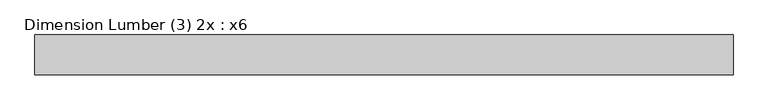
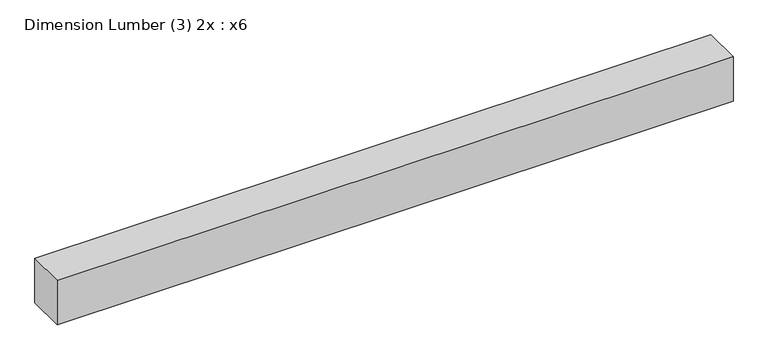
"""IFC4 building model written with IfcOpenShell, lengths in millimetres: beam geometry, Dimension Lumber (3) 2x : x6."""

from ifc_helpers import new_model, si_unit, frame, origin, place, context, project, spatial, polyline, outline, extrude, source, transform, mapped, element, save


def dimension_lumber_3_2x_x6_c5758202(model_context):
    return source(origin(), model_context, "Body", "SweptSolid", [
        extrude(outline(polyline([(1011.9868, 57.15), (1011.9868, -57.15), (-999.2868, -57.15), (-999.2868, 57.15), (1011.9868, 57.15)])), frame((0.0, 0.0, -69.85), z_axis=(0.0, 0.0, 1.0), x_axis=(1.0, 0.0, 0.0)), (0.0, 0.0, 1.0), 139.7),
    ])


if __name__ == "__main__":
    model = new_model("IFC4")
    model_context = context("Model", 3, world=origin())
    ifc_project = project(units=[si_unit("LENGTHUNIT", "METRE", prefix="MILLI")], contexts=[model_context])
    site = spatial("IfcSite", under=ifc_project)
    building = spatial("IfcBuilding", under=site)
    placement = place(None, origin())
    dimension_lumber_3_2x_x6_shape = dimension_lumber_3_2x_x6_c5758202(model_context)
    element("IfcBeam", 1, ObjectType="Dimension Lumber (3) 2x : x6", at=placement, inside=building, context=model_context, shape_type="MappedRepresentation", body=[
        mapped(dimension_lumber_3_2x_x6_shape, transform((0.0, 0.0, 0.0), x_axis=(1.0, 0.0, 0.0), y_axis=(0.0, 1.0, 0.0), z_axis=(0.0, 0.0, 1.0))),
    ])
    save(model, "model.ifc")
